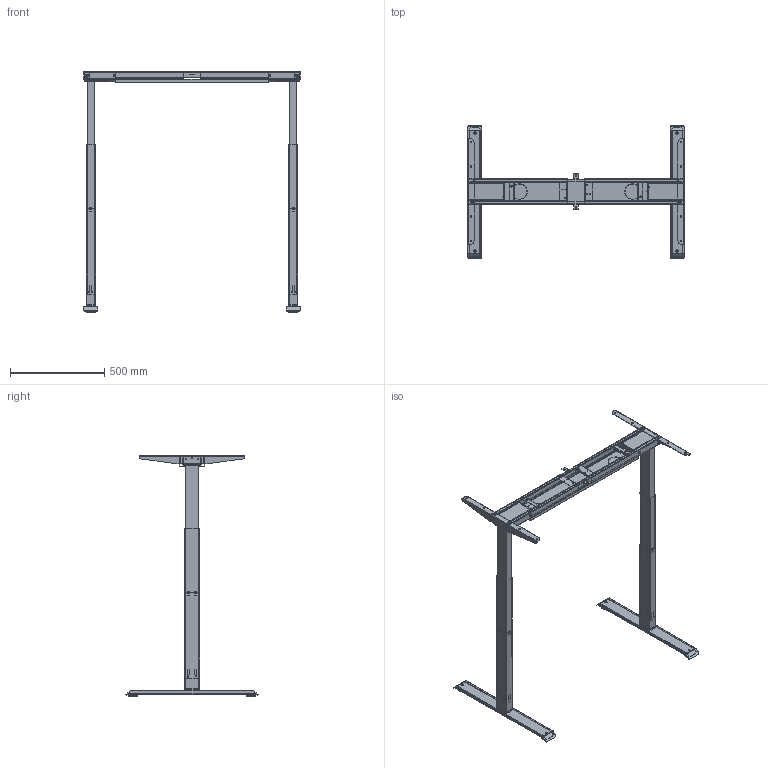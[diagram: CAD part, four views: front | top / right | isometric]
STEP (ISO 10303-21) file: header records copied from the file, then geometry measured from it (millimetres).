
FILE_DESCRIPTION(/* description */ ('Unknown'),/* implementation_level */ '2;1');
FILE_NAME(/* name */ 'Frame FBC-585-650-S-F2-EU-H1_ausgefahren',/* time_stamp */ '2026-10-02T11:10:00+02:00',/* author */ ('Unknown'),/* organization */ ('Unknown'),/* preprocessor_version */ 'ST-DEVELOPER v20',/* originating_system */ 'Solid Edge',/* authorisation */ 'Unknown');
FILE_SCHEMA (('AUTOMOTIVE_DESIGN {1 0 10303 214 3 1 1}'));
Products named in the file (1): Frame FBC-585-650-S-F2-EU-H1_schmal_hoch
Bounding box: 1148 x 700.1 x 1275 mm (x, y, z)
Volume: 3424442 mm3; surface area: 4129737.9 mm2
Topology: 49 solids, 49 shells, 3152 faces, 8640 edges, 5648 vertices
Faces by surface type: plane 1618, cylinder 1334, torus 72, bspline 64, cone 48, sphere 16
Full cylindrical faces by diameter (mm): 8.5 x40, 10 x44, 20 x4, 24 x4, 28 x4, 32 x4, 36 x4, 40 x4, 50 x4
Entity records: 115515 total; most frequent: CARTESIAN_POINT 33867, ORIENTED_EDGE 17248, DIRECTION 16594, EDGE_CURVE 8624, VERTEX_POINT 5648, AXIS2_PLACEMENT_3D 5637, LINE 5320, VECTOR 5320
